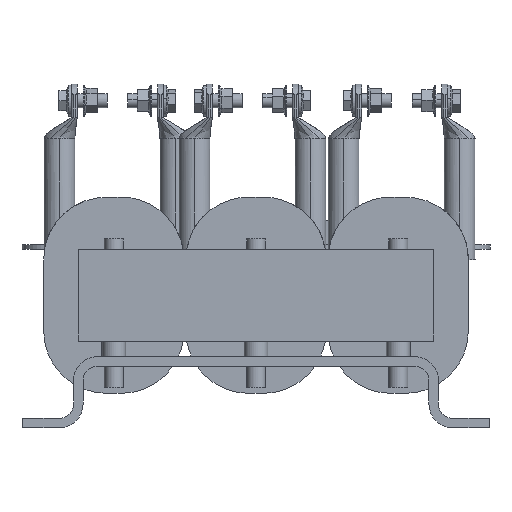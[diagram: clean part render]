
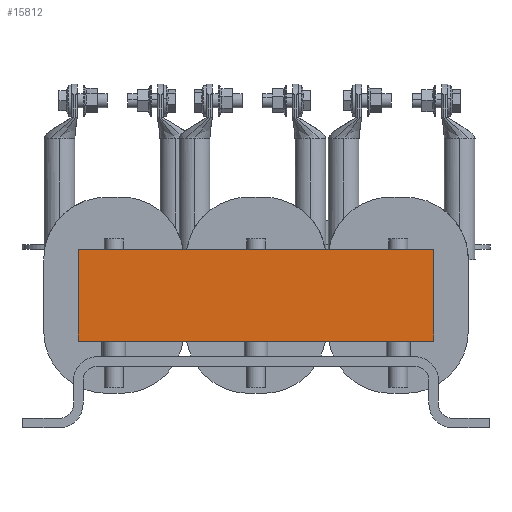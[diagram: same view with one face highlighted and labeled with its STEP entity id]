
A CAD part, front view. The second image highlights one B-rep face of the part: STEP entity #15812.
In plain terms, the highlighted planar face has unit normal (0, -1, 0).
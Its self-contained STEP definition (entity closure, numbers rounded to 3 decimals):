
#633 = FACE_OUTER_BOUND ( 'NONE', #3812, .T. ) ;
#1047 = EDGE_CURVE ( 'NONE', #21099, #14129, #16201, .T. ) ;
#2482 = CARTESIAN_POINT ( 'NONE',  ( -150., 0., -37.15 ) ) ;
#2962 = VERTEX_POINT ( 'NONE', #8220 ) ;
#3153 = LINE ( 'NONE', #15589, #13154 ) ;
#3325 = CARTESIAN_POINT ( 'NONE',  ( -150., 0., 38.65 ) ) ;
#3434 = LINE ( 'NONE', #3325, #17759 ) ;
#3812 = EDGE_LOOP ( 'NONE', ( #5136, #19980, #4063, #10306 ) ) ;
#3845 = CARTESIAN_POINT ( 'NONE',  ( -150., 0., -38.65 ) ) ;
#4063 = ORIENTED_EDGE ( 'NONE', *, *, #1047, .F. ) ;
#4211 = DIRECTION ( 'NONE',  ( 0., 0., 1. ) ) ;
#5136 = ORIENTED_EDGE ( 'NONE', *, *, #12190, .T. ) ;
#8220 = CARTESIAN_POINT ( 'NONE',  ( 150., 0., -38.65 ) ) ;
#9477 = DIRECTION ( 'NONE',  ( 0., -1., 0. ) ) ;
#9699 = PLANE ( 'NONE',  #11631 ) ;
#10306 = ORIENTED_EDGE ( 'NONE', *, *, #10812, .T. ) ;
#10812 = EDGE_CURVE ( 'NONE', #21099, #2962, #3153, .T. ) ;
#11631 = AXIS2_PLACEMENT_3D ( 'NONE', #2482, #9477, #16533 ) ;
#12190 = EDGE_CURVE ( 'NONE', #2962, #18729, #14749, .T. ) ;
#13124 = VECTOR ( 'NONE', #4211, 1000. ) ;
#13154 = VECTOR ( 'NONE', #15476, 1000. ) ;
#14104 = CARTESIAN_POINT ( 'NONE',  ( -150., 0., 38.65 ) ) ;
#14129 = VERTEX_POINT ( 'NONE', #14104 ) ;
#14622 = EDGE_CURVE ( 'NONE', #14129, #18729, #3434, .T. ) ;
#14749 = LINE ( 'NONE', #21654, #19997 ) ;
#15476 = DIRECTION ( 'NONE',  ( 1., 0., 0. ) ) ;
#15589 = CARTESIAN_POINT ( 'NONE',  ( -150., 0., -38.65 ) ) ;
#15812 = ADVANCED_FACE ( 'NONE', ( #633 ), #9699, .T. ) ;
#16201 = LINE ( 'NONE', #19992, #13124 ) ;
#16482 = DIRECTION ( 'NONE',  ( 0., 0., 1. ) ) ;
#16533 = DIRECTION ( 'NONE',  ( 0., 0., -1. ) ) ;
#17759 = VECTOR ( 'NONE', #19109, 1000. ) ;
#18729 = VERTEX_POINT ( 'NONE', #22393 ) ;
#19109 = DIRECTION ( 'NONE',  ( 1., 0., 0. ) ) ;
#19980 = ORIENTED_EDGE ( 'NONE', *, *, #14622, .F. ) ;
#19992 = CARTESIAN_POINT ( 'NONE',  ( -150., 0., -37.15 ) ) ;
#19997 = VECTOR ( 'NONE', #16482, 1000. ) ;
#21099 = VERTEX_POINT ( 'NONE', #3845 ) ;
#21654 = CARTESIAN_POINT ( 'NONE',  ( 150., 0., -37.15 ) ) ;
#22393 = CARTESIAN_POINT ( 'NONE',  ( 150., 0., 38.65 ) ) ;
